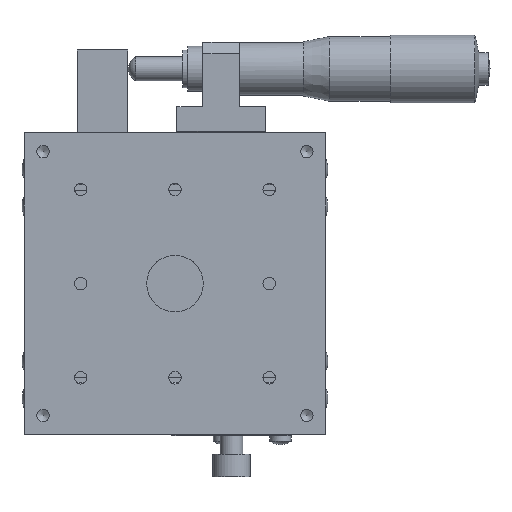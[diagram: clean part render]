
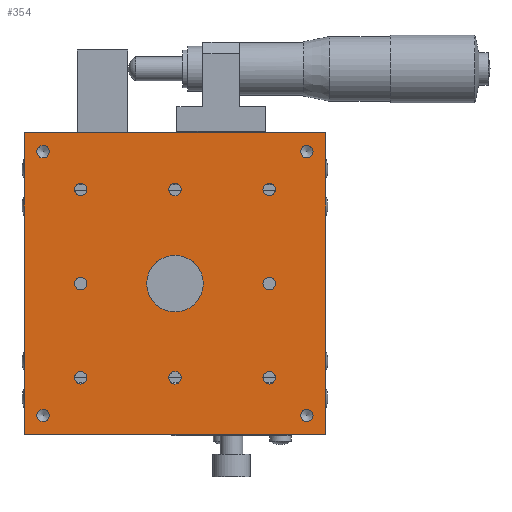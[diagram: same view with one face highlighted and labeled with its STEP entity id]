
A CAD part, top view. The second image highlights one B-rep face of the part: STEP entity #354.
In plain terms, the highlighted planar face has unit normal (0, 0, 1).
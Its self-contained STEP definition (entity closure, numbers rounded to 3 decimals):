
#354 = ADVANCED_FACE( '', ( #854, #855, #856, #857, #858, #859, #860, #861, #862, #863, #864, #865, #866, #867 ), #868, .T. );
#854 = FACE_BOUND( '', #1554, .T. );
#855 = FACE_BOUND( '', #1555, .T. );
#856 = FACE_BOUND( '', #1556, .T. );
#857 = FACE_BOUND( '', #1557, .T. );
#858 = FACE_BOUND( '', #1558, .T. );
#859 = FACE_BOUND( '', #1559, .T. );
#860 = FACE_BOUND( '', #1560, .T. );
#861 = FACE_BOUND( '', #1561, .T. );
#862 = FACE_BOUND( '', #1562, .T. );
#863 = FACE_BOUND( '', #1563, .T. );
#864 = FACE_BOUND( '', #1564, .T. );
#865 = FACE_BOUND( '', #1565, .T. );
#866 = FACE_OUTER_BOUND( '', #1566, .T. );
#867 = FACE_BOUND( '', #1567, .T. );
#868 = PLANE( '', #1568 );
#1554 = EDGE_LOOP( '', ( #2512 ) );
#1555 = EDGE_LOOP( '', ( #2513 ) );
#1556 = EDGE_LOOP( '', ( #2514 ) );
#1557 = EDGE_LOOP( '', ( #2515 ) );
#1558 = EDGE_LOOP( '', ( #2516 ) );
#1559 = EDGE_LOOP( '', ( #2517 ) );
#1560 = EDGE_LOOP( '', ( #2518 ) );
#1561 = EDGE_LOOP( '', ( #2519 ) );
#1562 = EDGE_LOOP( '', ( #2520 ) );
#1563 = EDGE_LOOP( '', ( #2521 ) );
#1564 = EDGE_LOOP( '', ( #2522 ) );
#1565 = EDGE_LOOP( '', ( #2523 ) );
#1566 = EDGE_LOOP( '', ( #2524, #2525, #2526, #2527 ) );
#1567 = EDGE_LOOP( '', ( #2528 ) );
#1568 = AXIS2_PLACEMENT_3D( '', #2529, #2530, #2531 );
#2512 = ORIENTED_EDGE( '', *, *, #3810, .T. );
#2513 = ORIENTED_EDGE( '', *, *, #3901, .T. );
#2514 = ORIENTED_EDGE( '', *, *, #3681, .T. );
#2515 = ORIENTED_EDGE( '', *, *, #3902, .T. );
#2516 = ORIENTED_EDGE( '', *, *, #3903, .T. );
#2517 = ORIENTED_EDGE( '', *, *, #3686, .T. );
#2518 = ORIENTED_EDGE( '', *, *, #3904, .T. );
#2519 = ORIENTED_EDGE( '', *, *, #3704, .T. );
#2520 = ORIENTED_EDGE( '', *, *, #3905, .T. );
#2521 = ORIENTED_EDGE( '', *, *, #3906, .T. );
#2522 = ORIENTED_EDGE( '', *, *, #3907, .T. );
#2523 = ORIENTED_EDGE( '', *, *, #3908, .T. );
#2524 = ORIENTED_EDGE( '', *, *, #3909, .F. );
#2525 = ORIENTED_EDGE( '', *, *, #3910, .F. );
#2526 = ORIENTED_EDGE( '', *, *, #3911, .F. );
#2527 = ORIENTED_EDGE( '', *, *, #3912, .F. );
#2528 = ORIENTED_EDGE( '', *, *, #3913, .T. );
#2529 = CARTESIAN_POINT( '', ( 0., 0., 20. ) );
#2530 = DIRECTION( '', ( 0., 0., 1. ) );
#2531 = DIRECTION( '', ( 0., 1., 0. ) );
#3681 = EDGE_CURVE( '', #4338, #4338, #4339, .T. );
#3686 = EDGE_CURVE( '', #4346, #4346, #4347, .T. );
#3704 = EDGE_CURVE( '', #4377, #4377, #4378, .T. );
#3810 = EDGE_CURVE( '', #4559, #4559, #4560, .T. );
#3901 = EDGE_CURVE( '', #4698, #4698, #4699, .T. );
#3902 = EDGE_CURVE( '', #4700, #4700, #4701, .T. );
#3903 = EDGE_CURVE( '', #4702, #4702, #4703, .T. );
#3904 = EDGE_CURVE( '', #4704, #4704, #4705, .T. );
#3905 = EDGE_CURVE( '', #4706, #4706, #4707, .T. );
#3906 = EDGE_CURVE( '', #4708, #4708, #4709, .T. );
#3907 = EDGE_CURVE( '', #4710, #4710, #4711, .T. );
#3908 = EDGE_CURVE( '', #4712, #4712, #4713, .T. );
#3909 = EDGE_CURVE( '', #4714, #4715, #4716, .T. );
#3910 = EDGE_CURVE( '', #4717, #4714, #4718, .T. );
#3911 = EDGE_CURVE( '', #4719, #4717, #4720, .T. );
#3912 = EDGE_CURVE( '', #4715, #4719, #4721, .T. );
#3913 = EDGE_CURVE( '', #4722, #4722, #4723, .F. );
#4338 = VERTEX_POINT( '', #5287 );
#4339 = CIRCLE( '', #5288, 1.65 );
#4346 = VERTEX_POINT( '', #5297 );
#4347 = CIRCLE( '', #5298, 1.65 );
#4377 = VERTEX_POINT( '', #5334 );
#4378 = CIRCLE( '', #5335, 1.65 );
#4559 = VERTEX_POINT( '', #5590 );
#4560 = CIRCLE( '', #5591, 1.65 );
#4698 = VERTEX_POINT( '', #5768 );
#4699 = CIRCLE( '', #5769, 1.65 );
#4700 = VERTEX_POINT( '', #5770 );
#4701 = CIRCLE( '', #5771, 1.65 );
#4702 = VERTEX_POINT( '', #5772 );
#4703 = CIRCLE( '', #5773, 1.65 );
#4704 = VERTEX_POINT( '', #5774 );
#4705 = CIRCLE( '', #5775, 1.65 );
#4706 = VERTEX_POINT( '', #5776 );
#4707 = CIRCLE( '', #5777, 1.65 );
#4708 = VERTEX_POINT( '', #5778 );
#4709 = CIRCLE( '', #5779, 1.65 );
#4710 = VERTEX_POINT( '', #5780 );
#4711 = CIRCLE( '', #5781, 1.65 );
#4712 = VERTEX_POINT( '', #5782 );
#4713 = CIRCLE( '', #5783, 1.65 );
#4714 = VERTEX_POINT( '', #5784 );
#4715 = VERTEX_POINT( '', #5785 );
#4716 = LINE( '', #5786, #5787 );
#4717 = VERTEX_POINT( '', #5788 );
#4718 = LINE( '', #5789, #5790 );
#4719 = VERTEX_POINT( '', #5791 );
#4720 = LINE( '', #5792, #5793 );
#4721 = LINE( '', #5794, #5795 );
#4722 = VERTEX_POINT( '', #5796 );
#4723 = CIRCLE( '', #5797, 7.5 );
#5287 = CARTESIAN_POINT( '', ( 0., 23.35, 20. ) );
#5288 = AXIS2_PLACEMENT_3D( '', #6446, #6447, #6448 );
#5297 = CARTESIAN_POINT( '', ( 25., -26.65, 20. ) );
#5298 = AXIS2_PLACEMENT_3D( '', #6454, #6455, #6456 );
#5334 = CARTESIAN_POINT( '', ( -25., -26.65, 20. ) );
#5335 = AXIS2_PLACEMENT_3D( '', #6481, #6482, #6483 );
#5590 = CARTESIAN_POINT( '', ( -25., -1.65, 20. ) );
#5591 = AXIS2_PLACEMENT_3D( '', #6606, #6607, #6608 );
#5768 = CARTESIAN_POINT( '', ( -25., 23.35, 20. ) );
#5769 = AXIS2_PLACEMENT_3D( '', #6723, #6724, #6725 );
#5770 = CARTESIAN_POINT( '', ( 25., 23.35, 20. ) );
#5771 = AXIS2_PLACEMENT_3D( '', #6726, #6727, #6728 );
#5772 = CARTESIAN_POINT( '', ( 25., -1.65, 20. ) );
#5773 = AXIS2_PLACEMENT_3D( '', #6729, #6730, #6731 );
#5774 = CARTESIAN_POINT( '', ( 0., -26.65, 20. ) );
#5775 = AXIS2_PLACEMENT_3D( '', #6732, #6733, #6734 );
#5776 = CARTESIAN_POINT( '', ( -35., 33.35, 20. ) );
#5777 = AXIS2_PLACEMENT_3D( '', #6735, #6736, #6737 );
#5778 = CARTESIAN_POINT( '', ( 35., 33.35, 20. ) );
#5779 = AXIS2_PLACEMENT_3D( '', #6738, #6739, #6740 );
#5780 = CARTESIAN_POINT( '', ( 35., -36.65, 20. ) );
#5781 = AXIS2_PLACEMENT_3D( '', #6741, #6742, #6743 );
#5782 = CARTESIAN_POINT( '', ( -35., -36.65, 20. ) );
#5783 = AXIS2_PLACEMENT_3D( '', #6744, #6745, #6746 );
#5784 = CARTESIAN_POINT( '', ( 40., -40., 20. ) );
#5785 = CARTESIAN_POINT( '', ( -40., -40., 20. ) );
#5786 = CARTESIAN_POINT( '', ( 0., -40., 20. ) );
#5787 = VECTOR( '', #6747, 1000. );
#5788 = CARTESIAN_POINT( '', ( 40., 40., 20. ) );
#5789 = CARTESIAN_POINT( '', ( 40., 0., 20. ) );
#5790 = VECTOR( '', #6748, 1000. );
#5791 = CARTESIAN_POINT( '', ( -40., 40., 20. ) );
#5792 = CARTESIAN_POINT( '', ( 0., 40., 20. ) );
#5793 = VECTOR( '', #6749, 1000. );
#5794 = CARTESIAN_POINT( '', ( -40., 0., 20. ) );
#5795 = VECTOR( '', #6750, 1000. );
#5796 = CARTESIAN_POINT( '', ( 0., 7.5, 20. ) );
#5797 = AXIS2_PLACEMENT_3D( '', #6751, #6752, #6753 );
#6446 = CARTESIAN_POINT( '', ( 0., 25., 20. ) );
#6447 = DIRECTION( '', ( 0., 0., -1. ) );
#6448 = DIRECTION( '', ( 0., -1., 0. ) );
#6454 = CARTESIAN_POINT( '', ( 25., -25., 20. ) );
#6455 = DIRECTION( '', ( 0., 0., -1. ) );
#6456 = DIRECTION( '', ( 0., -1., 0. ) );
#6481 = CARTESIAN_POINT( '', ( -25., -25., 20. ) );
#6482 = DIRECTION( '', ( 0., 0., -1. ) );
#6483 = DIRECTION( '', ( 0., -1., 0. ) );
#6606 = CARTESIAN_POINT( '', ( -25., 0., 20. ) );
#6607 = DIRECTION( '', ( 0., 0., -1. ) );
#6608 = DIRECTION( '', ( 0., -1., 0. ) );
#6723 = CARTESIAN_POINT( '', ( -25., 25., 20. ) );
#6724 = DIRECTION( '', ( 0., 0., -1. ) );
#6725 = DIRECTION( '', ( 0., -1., 0. ) );
#6726 = CARTESIAN_POINT( '', ( 25., 25., 20. ) );
#6727 = DIRECTION( '', ( 0., 0., -1. ) );
#6728 = DIRECTION( '', ( 0., -1., 0. ) );
#6729 = CARTESIAN_POINT( '', ( 25., 0., 20. ) );
#6730 = DIRECTION( '', ( 0., 0., -1. ) );
#6731 = DIRECTION( '', ( 0., -1., 0. ) );
#6732 = CARTESIAN_POINT( '', ( 0., -25., 20. ) );
#6733 = DIRECTION( '', ( 0., 0., -1. ) );
#6734 = DIRECTION( '', ( 0., -1., 0. ) );
#6735 = CARTESIAN_POINT( '', ( -35., 35., 20. ) );
#6736 = DIRECTION( '', ( 0., 0., -1. ) );
#6737 = DIRECTION( '', ( 0., -1., 0. ) );
#6738 = CARTESIAN_POINT( '', ( 35., 35., 20. ) );
#6739 = DIRECTION( '', ( 0., 0., -1. ) );
#6740 = DIRECTION( '', ( 0., -1., 0. ) );
#6741 = CARTESIAN_POINT( '', ( 35., -35., 20. ) );
#6742 = DIRECTION( '', ( 0., 0., -1. ) );
#6743 = DIRECTION( '', ( 0., -1., 0. ) );
#6744 = CARTESIAN_POINT( '', ( -35., -35., 20. ) );
#6745 = DIRECTION( '', ( 0., 0., -1. ) );
#6746 = DIRECTION( '', ( 0., -1., 0. ) );
#6747 = DIRECTION( '', ( -1., 0., 0. ) );
#6748 = DIRECTION( '', ( 0., -1., 0. ) );
#6749 = DIRECTION( '', ( 1., 0., 0. ) );
#6750 = DIRECTION( '', ( 0., 1., 0. ) );
#6751 = CARTESIAN_POINT( '', ( 0., 0., 20. ) );
#6752 = DIRECTION( '', ( 0., 0., 1. ) );
#6753 = DIRECTION( '', ( 0., 1., 0. ) );
